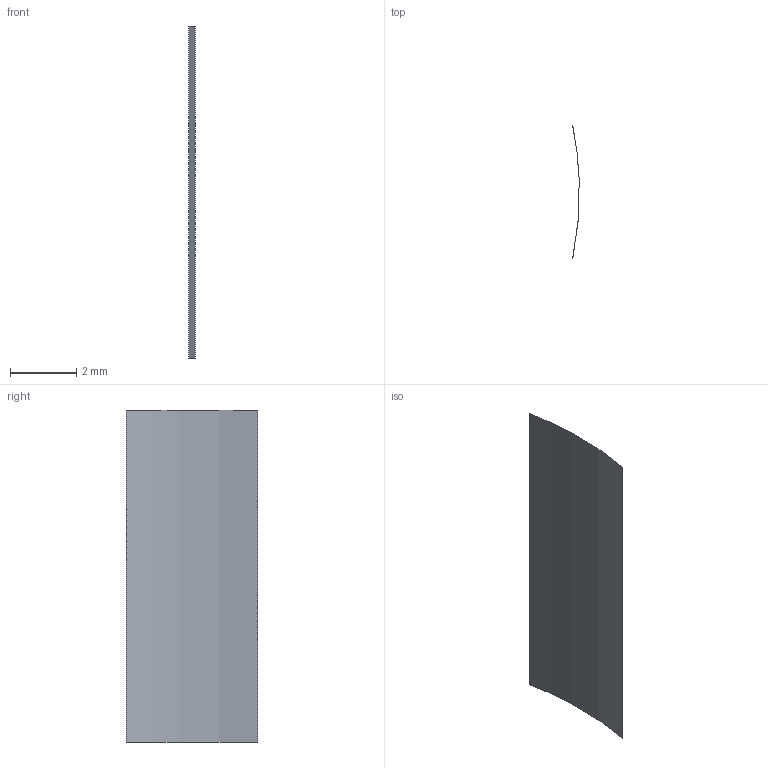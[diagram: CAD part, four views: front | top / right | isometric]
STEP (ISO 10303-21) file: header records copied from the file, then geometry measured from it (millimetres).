
FILE_DESCRIPTION(('BRL-CAD AP203 closed NURBS interval validation fixture'),'2;1');
FILE_NAME('ap203_closed_nurbs_interval.stp','2026-07-21T00:00:00',('BRL-CAD'),('BRL-CAD'),'','','');
FILE_SCHEMA(('CONFIG_CONTROL_DESIGN'));
Length unit declared in the file: millimetre
Products named in the file (1): closed_nurbs_interval
Bounding box: 0.19 x 3.97 x 10 mm (x, y, z)
Surface area: 40 mm2 (no closed solid volume)
Topology: 0 solids, 1 shells, 1 faces, 4 edges, 4 vertices
Faces by surface type: bspline 1
Entity records: 58 total; most frequent: CARTESIAN_POINT 24, VERTEX_POINT 4, EDGE_CURVE 4, ORIENTED_EDGE 4, LINE 2, DIRECTION 1, VECTOR 1, EDGE_LOOP 1
